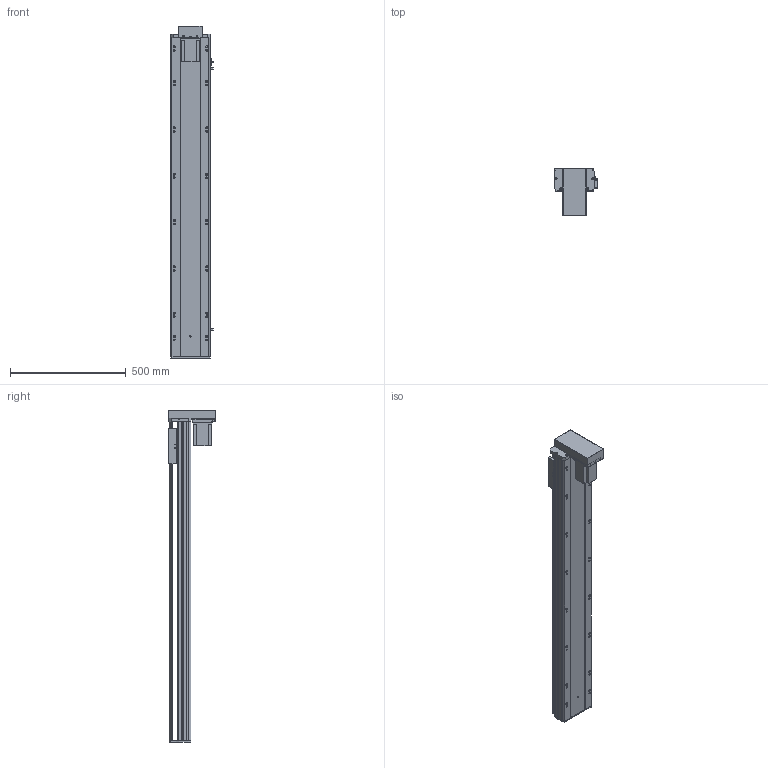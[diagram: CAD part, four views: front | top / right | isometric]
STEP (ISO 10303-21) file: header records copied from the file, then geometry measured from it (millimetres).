
FILE_DESCRIPTION (( 'STEP AP203' ), '1' );
FILE_NAME ('Y170-D10-S1150-BM-P750W.STEP', '2020-01-22T03:22:12', ( '微软用户' ), ( '微软中国' ), 'SwSTEP 2.0', 'SolidWorks 2017', '' );
FILE_SCHEMA (( 'CONFIG_CONTROL_DESIGN' ));
Length unit declared in the file: millimetre
Products named in the file (12): YD-Y100-135-新外置传感挡片(通用）; 170-BM耜蚾蟀諉啣; Y100-135俋离換覜ん; Y170-BM--P750W楊擘啣; Y170-D10-S1150-BM-P750W; -BM俋袗; Y170耜裔--準---; 170--掛极-BR; 侂狟750W; EGH20賑輸_蕼偞; Y雄赽釱-耜蚾; Y170-陔遴奻裔-BR
Assembly tree (14 placements, depth 2):
  Y170-D10-S1150-BM-P750W
    Y170耜裔--準---
    170--掛极-BR
    侂狟750W
    EGH20賑輸_蕼偞  x2
    Y雄赽釱-耜蚾
    Y170-陔遴奻裔-BR
    170-BM耜蚾蟀諉啣
    Y170-BM--P750W楊擘啣
    -BM俋袗
    YD-Y100-135-新外置传感挡片(通用）
    Y100-135俋离換覜ん  x3
Bounding box: 183.5 x 203.5 x 1433.5 mm (x, y, z)
Volume: 6613751.9 mm3; surface area: 2296271.3 mm2
Topology: 14 solids, 14 shells, 930 faces, 2652 edges, 1750 vertices
Faces by surface type: cylinder 478, plane 436, cone 16
Entity records: 29786 total; most frequent: CARTESIAN_POINT 5375, DIRECTION 4904, ORIENTED_EDGE 4800, EDGE_CURVE 2400, AXIS2_PLACEMENT_3D 1747, VERTEX_POINT 1594, VECTOR 1410, LINE 1410
